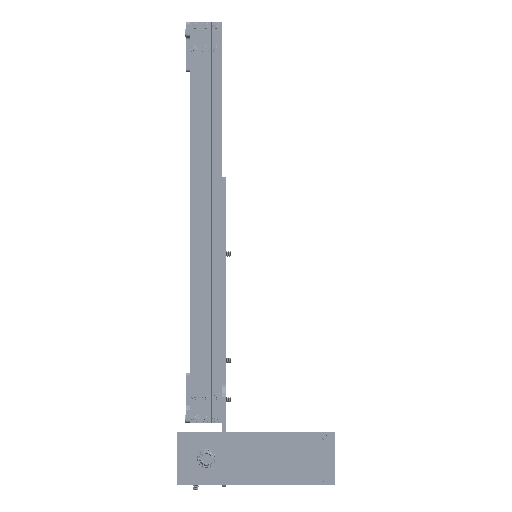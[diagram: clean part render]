
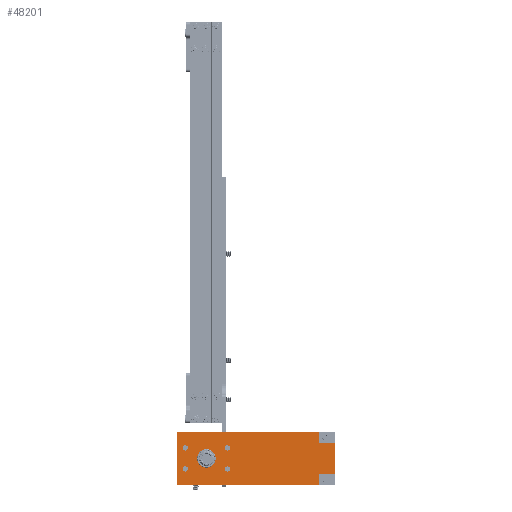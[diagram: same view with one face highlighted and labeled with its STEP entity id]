
A CAD part, front view. The second image highlights one B-rep face of the part: STEP entity #48201.
In plain terms, the highlighted planar face has unit normal (0, -1, 0) as drawn and (0, 0, -1) by its records, which use the part's own axes.
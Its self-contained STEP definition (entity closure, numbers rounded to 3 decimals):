
#48085=CARTESIAN_POINT('',(60.,60.,-3.));
#48086=DIRECTION('',(1.,0.,0.));
#48087=DIRECTION('',(0.,0.,1.));
#48088=AXIS2_PLACEMENT_3D('',#48085,#48087,#48086);
#48089=PLANE('',#48088);
#48090=CARTESIAN_POINT('',(0.,0.,-3.));
#48091=VERTEX_POINT('',#48090);
#48092=CARTESIAN_POINT('',(40.,0.,-3.));
#48093=VERTEX_POINT('',#48092);
#48094=CARTESIAN_POINT('',(0.,0.,-3.));
#48095=DIRECTION('',(1.,0.,0.));
#48096=VECTOR('',#48095,40.);
#48097=LINE('',#48094,#48096);
#48098=EDGE_CURVE('',#48091,#48093,#48097,.T.);
#48099=ORIENTED_EDGE('E5',*,*,#48098,.T.);
#48100=CARTESIAN_POINT('',(40.,120.,-3.));
#48101=VERTEX_POINT('',#48100);
#48102=CARTESIAN_POINT('',(40.,0.,-3.));
#48103=DIRECTION('',(0.,1.,0.));
#48104=VECTOR('',#48103,120.);
#48105=LINE('',#48102,#48104);
#48106=EDGE_CURVE('',#48093,#48101,#48105,.T.);
#48107=ORIENTED_EDGE('E6',*,*,#48106,.T.);
#48108=CARTESIAN_POINT('',(0.,120.,-3.));
#48109=VERTEX_POINT('',#48108);
#48110=CARTESIAN_POINT('',(40.,120.,-3.));
#48111=DIRECTION('',(-1.,0.,0.));
#48112=VECTOR('',#48111,40.);
#48113=LINE('',#48110,#48112);
#48114=EDGE_CURVE('',#48101,#48109,#48113,.T.);
#48115=ORIENTED_EDGE('E7',*,*,#48114,.T.);
#48116=CARTESIAN_POINT('',(0.,120.,-3.));
#48117=DIRECTION('',(0.,-1.,0.));
#48118=VECTOR('',#48117,120.);
#48119=LINE('',#48116,#48118);
#48120=EDGE_CURVE('',#48109,#48091,#48119,.T.);
#48121=ORIENTED_EDGE('E8',*,*,#48120,.T.);
#48122=EDGE_LOOP('',(#48099,#48107,#48115,#48121));
#48123=FACE_OUTER_BOUND('',#48122,.F.);
#48124=CARTESIAN_POINT('',(5.65,8.,-3.));
#48125=VERTEX_POINT('',#48124);
#48126=CARTESIAN_POINT('',(4.,8.,-3.));
#48127=DIRECTION('',(1.,0.,0.));
#48128=DIRECTION('',(0.,0.,-1.));
#48129=AXIS2_PLACEMENT_3D('',#48126,#48128,#48127);
#48130=CIRCLE('',#48129,1.65);
#48131=EDGE_CURVE('',#48125,#48125,#48130,.T.);
#48132=ORIENTED_EDGE('E14',*,*,#48131,.T.);
#48133=EDGE_LOOP('',(#48132));
#48134=FACE_BOUND('',#48133,.F.);
#48135=CARTESIAN_POINT('',(30.,81.846,-3.));
#48136=VERTEX_POINT('',#48135);
#48137=CARTESIAN_POINT('',(28.,81.846,-3.));
#48138=DIRECTION('',(1.,0.,0.));
#48139=DIRECTION('',(0.,0.,-1.));
#48140=AXIS2_PLACEMENT_3D('',#48137,#48139,#48138);
#48141=CIRCLE('',#48140,2.);
#48142=EDGE_CURVE('',#48136,#48136,#48141,.T.);
#48143=ORIENTED_EDGE('E17',*,*,#48142,.T.);
#48144=EDGE_LOOP('',(#48143));
#48145=FACE_BOUND('',#48144,.F.);
#48146=CARTESIAN_POINT('',(30.,113.846,-3.));
#48147=VERTEX_POINT('',#48146);
#48148=CARTESIAN_POINT('',(28.,113.846,-3.));
#48149=DIRECTION('',(1.,0.,0.));
#48150=DIRECTION('',(0.,0.,-1.));
#48151=AXIS2_PLACEMENT_3D('',#48148,#48150,#48149);
#48152=CIRCLE('',#48151,2.);
#48153=EDGE_CURVE('',#48147,#48147,#48152,.T.);
#48154=ORIENTED_EDGE('E20',*,*,#48153,.T.);
#48155=EDGE_LOOP('',(#48154));
#48156=FACE_BOUND('',#48155,.F.);
#48157=CARTESIAN_POINT('',(27.,97.846,-3.));
#48158=VERTEX_POINT('',#48157);
#48159=CARTESIAN_POINT('',(20.,97.846,-3.));
#48160=DIRECTION('',(1.,0.,0.));
#48161=DIRECTION('',(0.,0.,-1.));
#48162=AXIS2_PLACEMENT_3D('',#48159,#48161,#48160);
#48163=CIRCLE('',#48162,7.);
#48164=EDGE_CURVE('',#48158,#48158,#48163,.T.);
#48165=ORIENTED_EDGE('E23',*,*,#48164,.T.);
#48166=EDGE_LOOP('',(#48165));
#48167=FACE_BOUND('',#48166,.F.);
#48168=CARTESIAN_POINT('',(14.,113.846,-3.));
#48169=VERTEX_POINT('',#48168);
#48170=CARTESIAN_POINT('',(12.,113.846,-3.));
#48171=DIRECTION('',(1.,0.,0.));
#48172=DIRECTION('',(0.,0.,-1.));
#48173=AXIS2_PLACEMENT_3D('',#48170,#48172,#48171);
#48174=CIRCLE('',#48173,2.);
#48175=EDGE_CURVE('',#48169,#48169,#48174,.T.);
#48176=ORIENTED_EDGE('E26',*,*,#48175,.T.);
#48177=EDGE_LOOP('',(#48176));
#48178=FACE_BOUND('',#48177,.F.);
#48179=CARTESIAN_POINT('',(14.,81.846,-3.));
#48180=VERTEX_POINT('',#48179);
#48181=CARTESIAN_POINT('',(12.,81.846,-3.));
#48182=DIRECTION('',(1.,0.,0.));
#48183=DIRECTION('',(0.,0.,-1.));
#48184=AXIS2_PLACEMENT_3D('',#48181,#48183,#48182);
#48185=CIRCLE('',#48184,2.);
#48186=EDGE_CURVE('',#48180,#48180,#48185,.T.);
#48187=ORIENTED_EDGE('E29',*,*,#48186,.T.);
#48188=EDGE_LOOP('',(#48187));
#48189=FACE_BOUND('',#48188,.F.);
#48190=CARTESIAN_POINT('',(37.65,8.,-3.));
#48191=VERTEX_POINT('',#48190);
#48192=CARTESIAN_POINT('',(36.,8.,-3.));
#48193=DIRECTION('',(1.,0.,0.));
#48194=DIRECTION('',(0.,0.,-1.));
#48195=AXIS2_PLACEMENT_3D('',#48192,#48194,#48193);
#48196=CIRCLE('',#48195,1.65);
#48197=EDGE_CURVE('',#48191,#48191,#48196,.T.);
#48198=ORIENTED_EDGE('E32',*,*,#48197,.T.);
#48199=EDGE_LOOP('',(#48198));
#48200=FACE_BOUND('',#48199,.F.);
#48201=ADVANCED_FACE('F2',(#48123,#48134,#48145,#48156,#48167,#48178,#48189,#48200),#48089,.F.);
